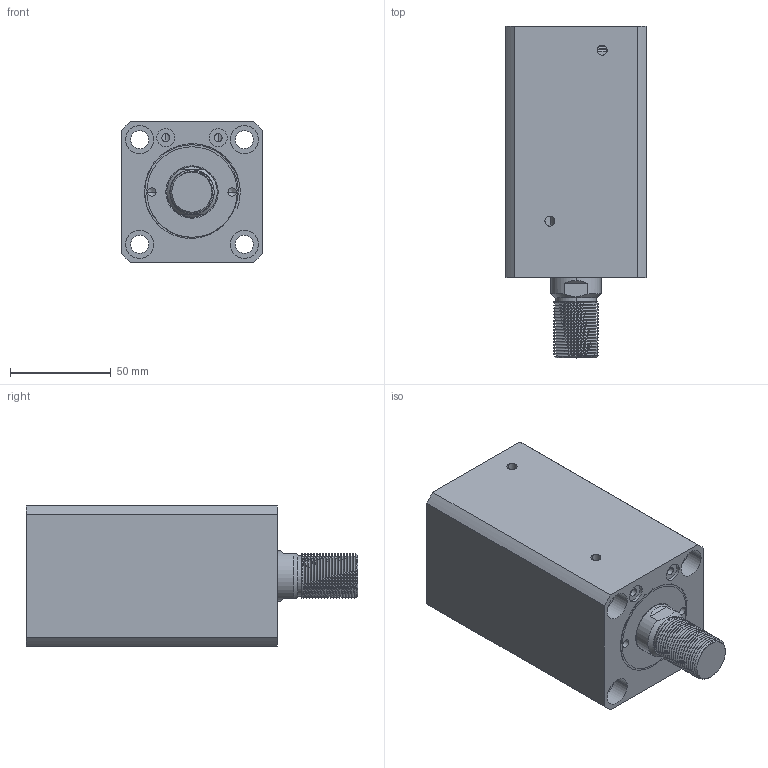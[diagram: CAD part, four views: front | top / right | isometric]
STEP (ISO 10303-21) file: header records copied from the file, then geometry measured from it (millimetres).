
FILE_DESCRIPTION (( 'STEP AP214' ), '1' );
FILE_NAME ('chtb-sdma40x70w_asm.STEP', '2018-06-06T02:02:06', ( 'Windows' ), ( 'Microsoft' ), 'SwSTEP 2.0', 'SolidWorks 2015', '' );
FILE_SCHEMA (( 'AUTOMOTIVE_DESIGN' ));
Length unit declared in the file: millimetre
Products named in the file (4): CHTB-SD40QG; CHTB-SDMA40X70NBT; CHTB-SD40X70WHSG; chtb-sdma40x70w_asm
Assembly tree (3 placements, depth 2):
  chtb-sdma40x70w_asm
    CHTB-SD40X70WHSG
    CHTB-SDMA40X70NBT
    CHTB-SD40QG
Bounding box: 70 x 165 x 70 mm (x, y, z)
Volume: 524546.8 mm3; surface area: 104295.8 mm2
Topology: 3 solids, 4 shells, 203 faces, 545 edges, 363 vertices
Faces by surface type: cylinder 122, plane 40, bspline 16, torus 14, cone 11
Entity records: 13587 total; most frequent: CARTESIAN_POINT 8658, ORIENTED_EDGE 1078, DIRECTION 914, EDGE_CURVE 539, AXIS2_PLACEMENT_3D 378, VERTEX_POINT 363, EDGE_LOOP 240, FACE_OUTER_BOUND 203
